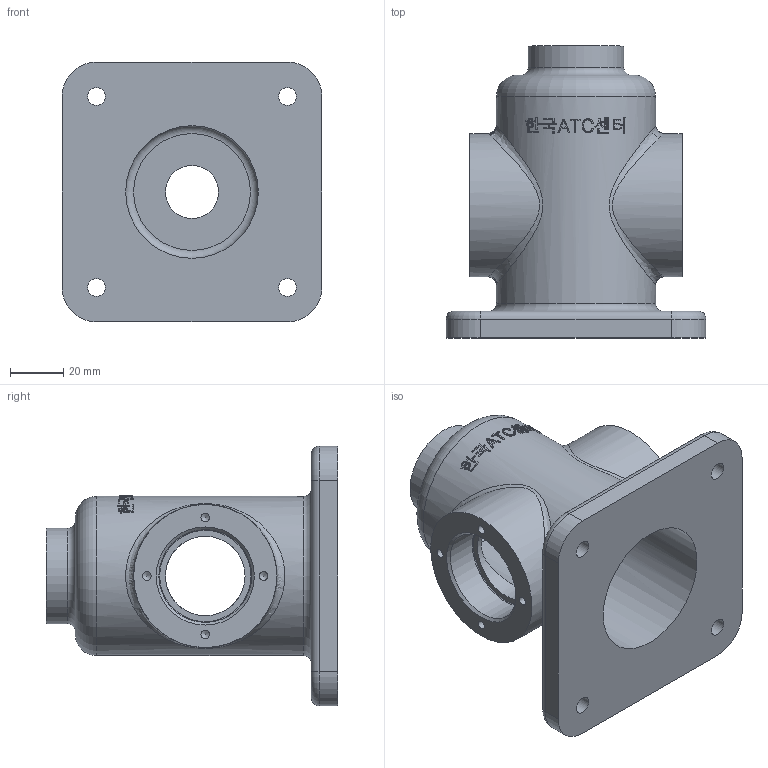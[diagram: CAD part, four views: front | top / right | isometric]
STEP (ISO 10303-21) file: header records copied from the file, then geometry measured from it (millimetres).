
FILE_DESCRIPTION(/* description */ (''),/* implementation_level */ '2;1');
FILE_NAME(/* name */ '',/* time_stamp */ '2026-05-29T16:33:29+09:00',/* author */ ('jhkim'),/* organization */ (''),/* preprocessor_version */ 'ST-DEVELOPER v20.1',/* originating_system */ 'Autodesk Inventor 2027',/* authorisation */ '');
FILE_SCHEMA (('AUTOMOTIVE_DESIGN { 1 0 10303 214 3 1 1 }'));
Length unit declared in the file: millimetre
Products named in the file (1): 본체
Bounding box: 98 x 110 x 98 mm (x, y, z)
Volume: 193987.9 mm3; surface area: 61747 mm2
Topology: 1 solids, 1 shells, 275 faces, 722 edges, 475 vertices
Faces by surface type: plane 108, bspline 87, cylinder 55, cone 15, torus 10
Full cylindrical faces by diameter (mm): 2.459 x4, 3.242 x8, 6.6 x4, 18 x4, 20 x1, 30 x2, 35 x2, 36 x1, 50 x1, 54 x2, 60 x1
Entity records: 10176 total; most frequent: CARTESIAN_POINT 3787, ORIENTED_EDGE 1420, DIRECTION 1107, EDGE_CURVE 710, VERTEX_POINT 475, AXIS2_PLACEMENT_3D 391, EDGE_LOOP 327, LINE 325
